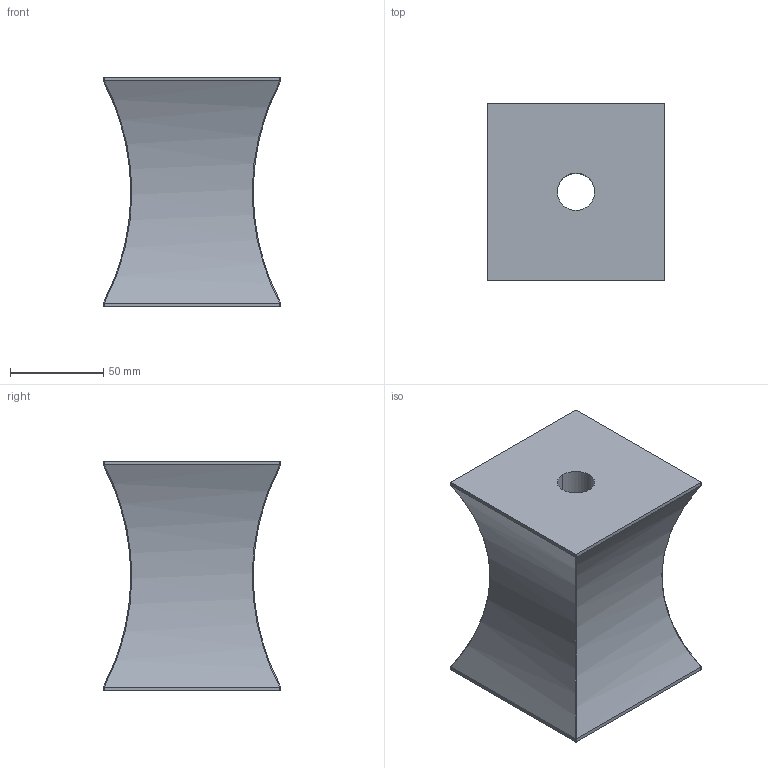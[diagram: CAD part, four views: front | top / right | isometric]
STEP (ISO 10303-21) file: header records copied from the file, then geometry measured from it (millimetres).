
FILE_DESCRIPTION(/* description */ (''),/* implementation_level */ '2;1');
FILE_NAME(/* name */ '3d_qx95-123_06524_r00.stp',/* time_stamp */ '2011-01-10T14:11:39+09:00',/* author */ ('MISUMI'),/* organization */ (''),/* preprocessor_version */ 'ST-DEVELOPER v11',/* originating_system */ 'UGS - NX 5.0',/* authorisation */ '');
FILE_SCHEMA (('CONFIG_CONTROL_DESIGN'));
Length unit declared in the file: millimetre
Products named in the file (1): 3d_qx95-123_06524_r00
Bounding box: 95 x 95 x 123 mm (x, y, z)
Volume: 677518.4 mm3; surface area: 63922.1 mm2
Topology: 1 solids, 1 shells, 28 faces, 78 edges, 52 vertices
Faces by surface type: cylinder 14, plane 10, bspline 4
Entity records: 4532 total; most frequent: CARTESIAN_POINT 3783, ORIENTED_EDGE 156, DIRECTION 108, EDGE_CURVE 78, VERTEX_POINT 52, AXIS2_PLACEMENT_3D 37, LINE 34, VECTOR 34
